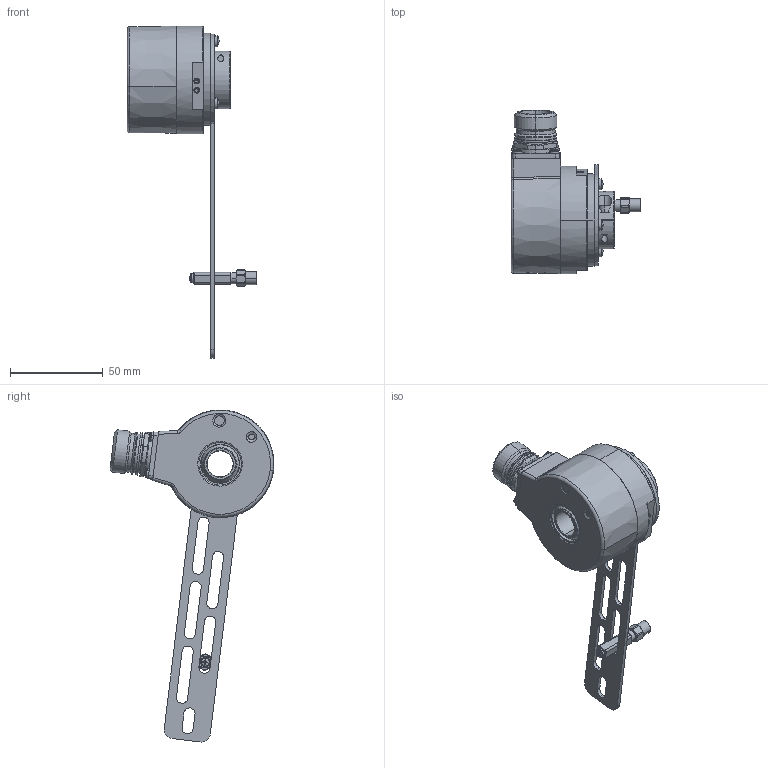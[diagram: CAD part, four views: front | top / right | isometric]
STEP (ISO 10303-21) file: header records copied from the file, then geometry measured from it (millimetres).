
FILE_DESCRIPTION (( 'STEP AP214' ), '1' );
FILE_NAME ('5834SIL.A5X4.XXXX.STEP', '2010-08-13T08:06:03', ( 'admin' ), ( 'Fritz Kübler GmbH' ), 'SwSTEP 2.0', 'SolidWorks 2009', '' );
FILE_SCHEMA (( 'AUTOMOTIVE_DESIGN' ));
Length unit declared in the file: millimetre
Products named in the file (1): 5834SIL.A5X4.XXXX
Bounding box: 70 x 88.28 x 178.83 mm (x, y, z)
Surface area: 35167.7 mm2 (no closed solid volume)
Topology: 0 solids, 47 shells, 494 faces, 1416 edges, 943 vertices
Faces by surface type: cylinder 193, plane 171, cone 70, sphere 30, torus 26, bspline 4
Entity records: 22441 total; most frequent: CARTESIAN_POINT 3786, DIRECTION 3029, ORIENTED_EDGE 2421, EDGE_CURVE 1402, AXIS2_PLACEMENT_3D 1216, VERTEX_POINT 943, CIRCLE 725, LINE 597
